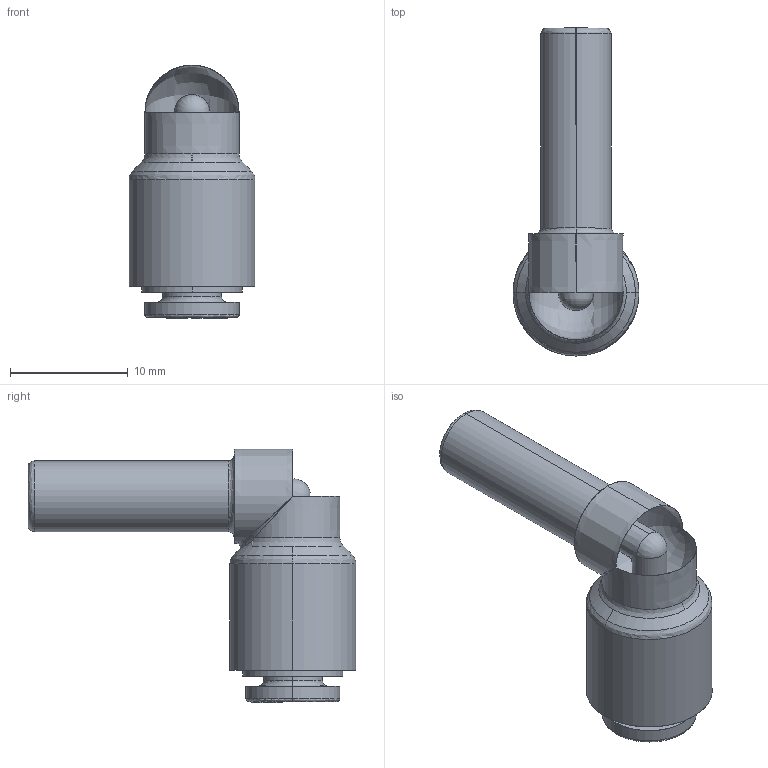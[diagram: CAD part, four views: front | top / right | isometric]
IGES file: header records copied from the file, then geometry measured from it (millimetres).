
Start section: SolidWorks IGES file using analytic representation for surfaces
Global section: file name: K:\Disegni Esecutivi\SERIE 54000\54000-Assiemi\54140\IGES\5414000002A.IGS; native system: SolidWorks 2020; preprocessor: SolidWorks 2020; author: CAD13; date: 240920.100713; units: millimetre
Bounding box: 10.7 x 27.85 x 21.55 mm (x, y, z)
Surface area: 1747.4 mm2 (no closed solid volume)
Topology: 0 solids, 0 shells, 251 faces, 1942 edges, 1937 vertices
Faces by surface type: bspline 220, revolution 31
